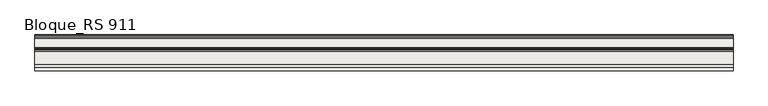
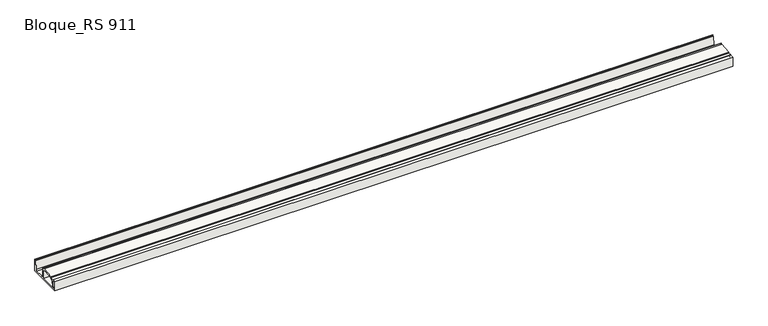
"""IFC4 building model written with IfcOpenShell, lengths in millimetres: slab geometry, ROSA GRES_RS 911 : Bloque_RS 911."""

from ifc_helpers import new_model, si_unit, point, frame, frame_2d, origin, place, context, project, spatial, polyline, circle_curve, trimmed, segment, composite_curve, outline, extrude, source, transform, mapped, element, save


def bloque_rs_911_a8a97c0f(model_context):
    return source(origin(), model_context, "Body", "SweptSolid", [
        extrude(outline(composite_curve([segment(polyline([(12.836227, 1.7539108), (12.836227, 171.9333029), (67.836227, 176.4100471), (67.836227, 173.8170239), (72.836227, 173.8170239), (72.836227, 176.8170239), (125.1172881, 181.0724591), (123.836227, 196.8112099), (343.836227, 214.7181867), (343.836227, 216.3460936), (363.836227, 216.3460936), (363.836227, 206.3460936), (381.836227, 206.3460936), (393.5484732, 55.2086635)]), True, "CONTINUOUS"), segment(trimmed(circle_curve(frame_2d((413.4886891, 56.7539108)), 20.0), [point((393.5484732, 55.2086635))], [point((413.4886891, 36.7539108))], True, "CARTESIAN"), True, "CONTINUOUS"), segment(polyline([(413.4886891, 36.7539108), (567.1837649, 36.7539108)]), True, "CONTINUOUS"), segment(trimmed(circle_curve(frame_2d((567.1837649, 56.7539108)), 20.0), [point((567.1837649, 36.7539108))], [point((587.1239808, 55.2086635))], True, "CARTESIAN"), True, "CONTINUOUS"), segment(polyline([(587.1239808, 55.2086635), (598.836227, 206.3460936), (616.836227, 206.3460936), (616.836227, 216.3460936), (626.836227, 216.3460936), (626.836227, 1.7539108), (12.836227, 1.7539108)]), True, "CONTINUOUS")], self_intersect=False), holes=[composite_curve([segment(trimmed(circle_curve(frame_2d((59.836227, 140.6431347)), 8.0), [point((67.836227, 140.6431347))], [point((59.1872106, 148.6167648))], True, "CARTESIAN"), True, "CONTINUOUS"), segment(polyline([(59.1872106, 148.6167648), (47.1872106, 147.6400206)]), True, "CONTINUOUS"), segment(trimmed(circle_curve(frame_2d((47.836227, 139.6663905)), 8.0), [point((47.1872106, 147.6400206))], [point((39.836227, 139.6663905))], True, "CARTESIAN"), True, "CONTINUOUS"), segment(polyline([(39.836227, 139.6663905), (39.836227, 36.7539108)]), True, "CONTINUOUS"), segment(trimmed(circle_curve(frame_2d((47.836227, 36.7539108)), 8.0), [point((39.836227, 36.7539108))], [point((47.836227, 28.7539108))], True, "CARTESIAN"), True, "CONTINUOUS"), segment(polyline([(47.836227, 28.7539108), (59.836227, 28.7539108)]), True, "CONTINUOUS"), segment(trimmed(circle_curve(frame_2d((59.836227, 36.7539108)), 8.0), [point((59.836227, 28.7539108))], [point((67.836227, 36.7539108))], True, "CARTESIAN"), True, "CONTINUOUS"), segment(polyline([(67.836227, 36.7539108), (67.836227, 140.6431347)]), True, "CONTINUOUS")], self_intersect=False), composite_curve([segment(trimmed(circle_curve(frame_2d((187.3063127, 84.534333)), 85.0), [point((180.4105134, 169.2541533))], [point((102.3063127, 84.534333))], True, "CARTESIAN"), True, "CONTINUOUS"), segment(polyline([(102.3063127, 84.534333), (102.3063127, 28.7539108), (356.3063127, 28.7539108), (356.3063127, 161.8772036)]), True, "CONTINUOUS"), segment(trimmed(circle_curve(frame_2d((336.3063127, 161.8772036)), 20.0), [point((356.3063127, 161.8772036))], [point((334.6837717, 181.811279))], True, "CARTESIAN"), True, "CONTINUOUS"), segment(polyline([(334.6837717, 181.811279), (180.4105134, 169.2541533)]), True, "CONTINUOUS")], self_intersect=False)]), frame((0.0, 0.0, 0.0), z_axis=(1.0, 0.0, 0.0), x_axis=(0.0, 1.0, 0.0)), (0.0, 0.0, 1.0), 12000.25),
    ])


if __name__ == "__main__":
    model = new_model("IFC4")
    model_context = context("Model", 3, world=origin())
    ifc_project = project(units=[si_unit("LENGTHUNIT", "METRE", prefix="MILLI")], contexts=[model_context])
    site = spatial("IfcSite", under=ifc_project)
    building = spatial("IfcBuilding", under=site)
    placement = place(None, origin())
    bloque_rs_911_shape = bloque_rs_911_a8a97c0f(model_context)
    element("IfcSlab", 1, ObjectType="ROSA GRES_RS 911 : Bloque_RS 911", at=placement, inside=building, context=model_context, shape_type="MappedRepresentation", body=[
        mapped(bloque_rs_911_shape, transform((0.0, 0.0, 0.0), x_axis=(1.0, 0.0, 0.0), y_axis=(0.0, 1.0, 0.0), z_axis=(0.0, 0.0, 1.0))),
    ])
    save(model, "model.ifc")
